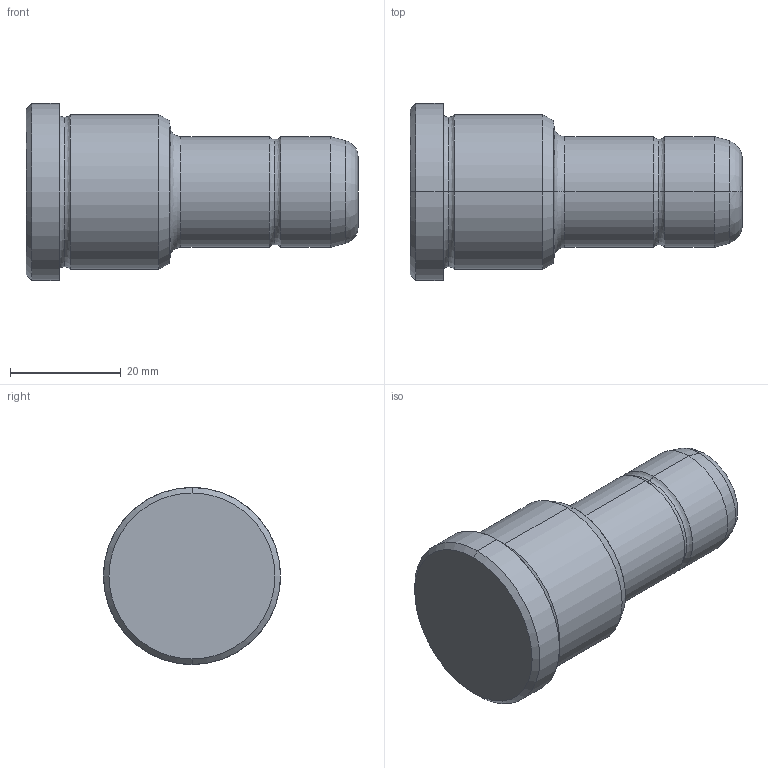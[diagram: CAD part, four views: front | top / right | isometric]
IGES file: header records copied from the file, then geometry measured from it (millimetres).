
Start section: START RECORD GO HERE.
Global section: file name: 351-20X26X60.igs; native system: DASSAULT SYSTEMES CATIA V5 R20 - www.3ds.com; preprocessor: CATIA Version 5 Release 20 ; author: Utente; organization: NB04-ASUS; date: 20210827.144228; units: millimetre
Bounding box: 60 x 32 x 32 mm (x, y, z)
Surface area: 5826.2 mm2 (no closed solid volume)
Topology: 0 solids, 0 shells, 30 faces, 172 edges, 172 vertices
Faces by surface type: revolution 26, plane 4
